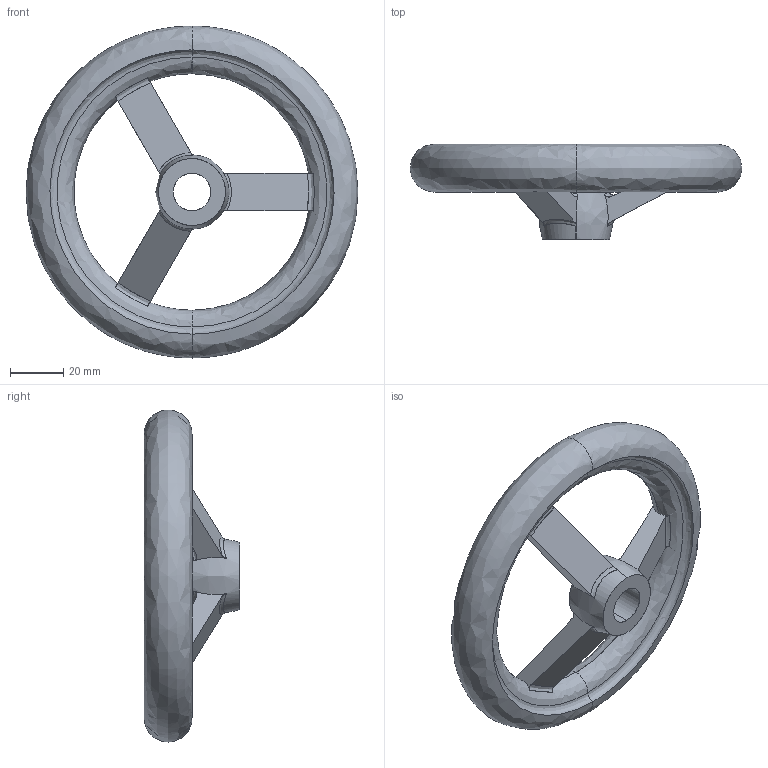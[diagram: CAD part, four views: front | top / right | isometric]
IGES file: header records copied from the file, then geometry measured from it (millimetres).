
Start section: SolidWorks IGES file using analytic representation for surfaces
Global section: file name: C:\Users\IanO\Desktop\Temp File\Process pending\77120_v2\77120_v2_20171108_IGES\77120.W0011.igs; native system: SolidWorks 2017; preprocessor: SolidWorks 2017; author: IanO; date: 171108.084021; units: millimetre
Bounding box: 125 x 36 x 125 mm (x, y, z)
Surface area: 26099.4 mm2 (no closed solid volume)
Topology: 0 solids, 0 shells, 51 faces, 864 edges, 856 vertices
Faces by surface type: bspline 49, revolution 2
